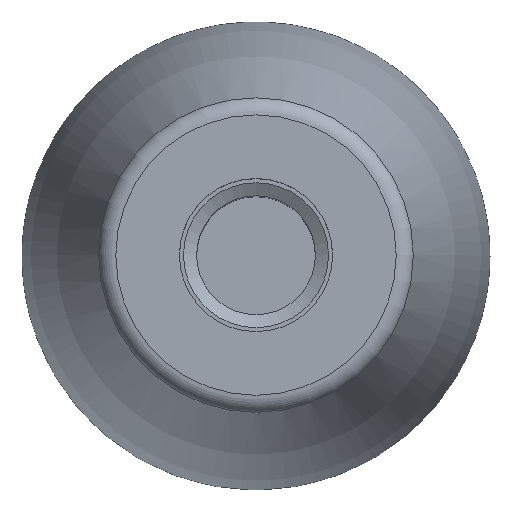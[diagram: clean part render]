
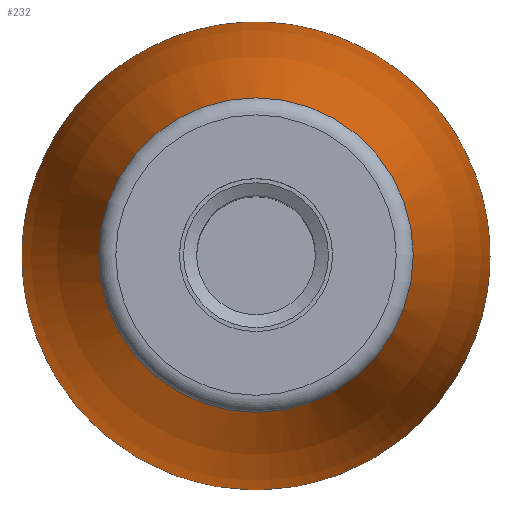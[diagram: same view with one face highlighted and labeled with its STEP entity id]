
A CAD part, top view. The second image highlights one B-rep face of the part: STEP entity #232.
In plain terms, the highlighted toroidal (fillet/blend) face has major radius 66.957 mm and minor radius 80 mm.
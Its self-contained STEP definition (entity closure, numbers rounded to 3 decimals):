
#19 = EDGE_CURVE ( 'NONE', #100, #100, #29, .T. ) ;
#21 = AXIS2_PLACEMENT_3D ( 'NONE', #167, #62, #139 ) ;
#22 = CIRCLE ( 'NONE', #21, 8.731 ) ;
#25 = AXIS2_PLACEMENT_3D ( 'NONE', #31, #123, #180 ) ;
#29 = CIRCLE ( 'NONE', #25, 12.992 ) ;
#31 = CARTESIAN_POINT ( 'NONE',  ( 0., 0., -29.468 ) ) ;
#41 = EDGE_LOOP ( 'NONE', ( #149 ) ) ;
#48 = EDGE_CURVE ( 'NONE', #220, #220, #22, .T. ) ;
#62 = DIRECTION ( 'NONE',  ( 0., 0., 1. ) ) ;
#77 = CARTESIAN_POINT ( 'NONE',  ( 0., 0., -26.586 ) ) ;
#79 = CARTESIAN_POINT ( 'NONE',  ( 8.731, 0., -0.676 ) ) ;
#95 = FACE_OUTER_BOUND ( 'NONE', #41, .T. ) ;
#100 = VERTEX_POINT ( 'NONE', #163 ) ;
#123 = DIRECTION ( 'NONE',  ( 0., 0., 1. ) ) ;
#136 = ORIENTED_EDGE ( 'NONE', *, *, #48, .F. ) ;
#139 = DIRECTION ( 'NONE',  ( 1., 0., 0. ) ) ;
#146 = DIRECTION ( 'NONE',  ( 0., 0., 1. ) ) ;
#149 = ORIENTED_EDGE ( 'NONE', *, *, #19, .T. ) ;
#163 = CARTESIAN_POINT ( 'NONE',  ( 12.992, 0., -29.468 ) ) ;
#167 = CARTESIAN_POINT ( 'NONE',  ( 0., 0., -0.676 ) ) ;
#180 = DIRECTION ( 'NONE',  ( 1., 0., 0. ) ) ;
#203 = DIRECTION ( 'NONE',  ( 1., 0., 0. ) ) ;
#208 = TOROIDAL_SURFACE ( 'NONE', #227, -66.957, 80. ) ;
#220 = VERTEX_POINT ( 'NONE', #79 ) ;
#224 = EDGE_LOOP ( 'NONE', ( #136 ) ) ;
#227 = AXIS2_PLACEMENT_3D ( 'NONE', #77, #146, #203 ) ;
#232 = ADVANCED_FACE ( 'NONE', ( #233, #95 ), #208, .T. ) ;
#233 = FACE_OUTER_BOUND ( 'NONE', #224, .T. ) ;
